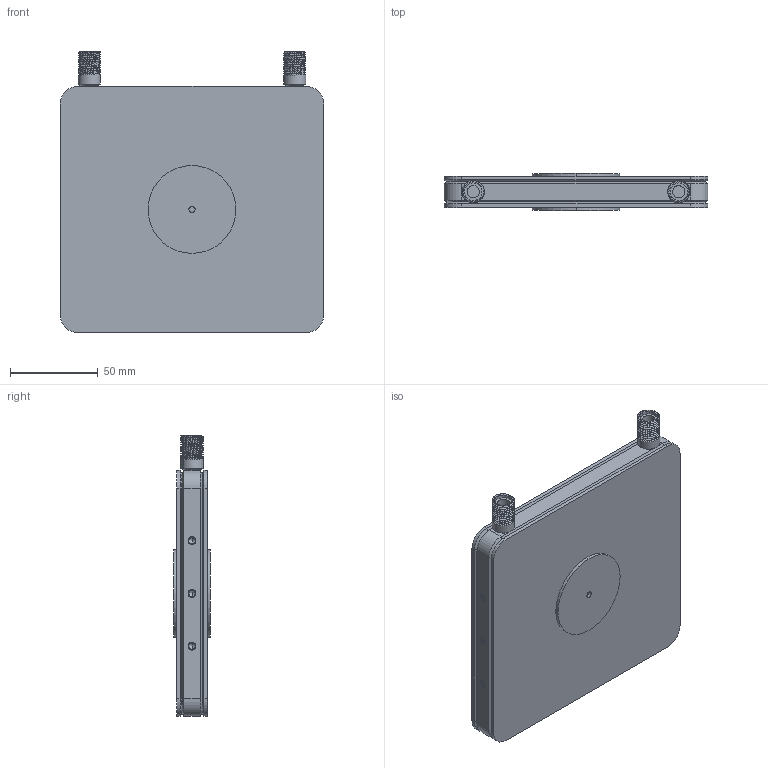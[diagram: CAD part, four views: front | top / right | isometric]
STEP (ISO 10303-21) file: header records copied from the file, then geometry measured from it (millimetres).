
FILE_DESCRIPTION (( 'STEP AP214' ), '1' );
FILE_NAME ('迓鑰50_摎蓲瀇僔蠂罻.STEP', '2025-08-06T15:09:05', ( '' ), ( '' ), 'SwSTEP 2.0', 'SolidWorks 2024', '' );
FILE_SCHEMA (( 'AUTOMOTIVE_DESIGN' ));
Length unit declared in the file: millimetre
Products named in the file (4): НОЖ_50_без_пластика; крышка верхняя; корпус; кастомный_ниппель
Assembly tree (5 placements, depth 2):
  НОЖ_50_без_пластика
    корпус
    кастомный_ниппель  x2
    крышка верхняя  x2
Bounding box: 150 x 21 x 159.85 mm (x, y, z)
Volume: 281557.4 mm3; surface area: 170473.2 mm2
Topology: 5 solids, 5 shells, 1150 faces, 3154 edges, 2028 vertices
Faces by surface type: cylinder 660, plane 398, cone 40, bspline 36, torus 16
Entity records: 42779 total; most frequent: CARTESIAN_POINT 23642, ORIENTED_EDGE 4400, DIRECTION 3634, EDGE_CURVE 2200, VERTEX_POINT 1421, AXIS2_PLACEMENT_3D 1263, VECTOR 1108, LINE 1108
